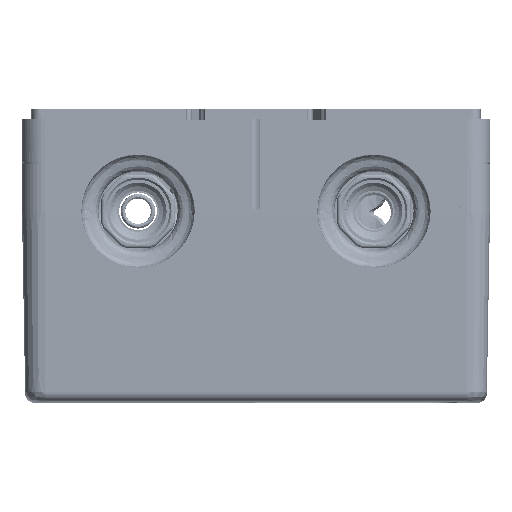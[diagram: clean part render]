
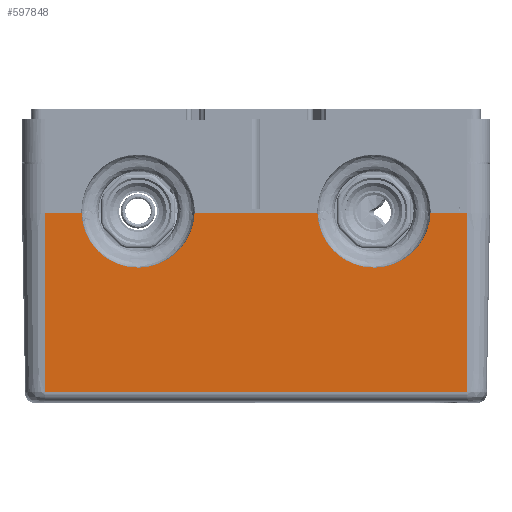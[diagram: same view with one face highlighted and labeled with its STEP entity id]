
A CAD part, top view. The second image highlights one B-rep face of the part: STEP entity #597848.
In plain terms, the highlighted planar face has unit normal (0, -0.018, 1) as drawn and (0, -1, 0.017) by its records, which use the part's own axes.
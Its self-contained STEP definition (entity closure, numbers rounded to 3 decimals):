
#23218 = CARTESIAN_POINT ( 'NONE',  ( -505.858, -53.996, 56.331 ) ) ;
#45542 = DIRECTION ( 'NONE',  ( 0., -0.017, -1. ) ) ;
#70361 = EDGE_CURVE ( 'NONE', #295335, #532044, #646770, .T. ) ;
#80579 = EDGE_CURVE ( 'NONE', #706822, #102458, #603341, .T. ) ;
#86307 = CARTESIAN_POINT ( 'NONE',  ( -564.021, -54.98, 0. ) ) ;
#102458 = VERTEX_POINT ( 'NONE', #276276 ) ;
#114531 = EDGE_CURVE ( 'NONE', #779554, #295335, #773133, .T. ) ;
#146332 = LINE ( 'NONE', #198091, #311118 ) ;
#161980 = VECTOR ( 'NONE', #217450, 1000. ) ;
#174602 = AXIS2_PLACEMENT_3D ( 'NONE', #179779, #818103, #45542 ) ;
#179779 = CARTESIAN_POINT ( 'NONE',  ( -484.537, -54.98, 0. ) ) ;
#185798 = CARTESIAN_POINT ( 'NONE',  ( -708.537, -54.98, 0. ) ) ;
#192102 = DIRECTION ( 'NONE',  ( 1., 0., 0. ) ) ;
#194723 = CARTESIAN_POINT ( 'NONE',  ( -708.537, -54.98, 0. ) ) ;
#198091 = CARTESIAN_POINT ( 'NONE',  ( -484.537, -54.98, 0. ) ) ;
#217450 = DIRECTION ( 'NONE',  ( 0., 0.017, 1. ) ) ;
#229019 = ORIENTED_EDGE ( 'NONE', *, *, #426930, .T. ) ;
#249799 = CARTESIAN_POINT ( 'NONE',  ( -630.852, -53.996, 56.343 ) ) ;
#268772 = VECTOR ( 'NONE', #419816, 1000. ) ;
#276276 = CARTESIAN_POINT ( 'NONE',  ( -708.537, -53.32, 95.087 ) ) ;
#287656 = CARTESIAN_POINT ( 'NONE',  ( -504.055, -54.98, 0. ) ) ;
#295335 = VERTEX_POINT ( 'NONE', #747730 ) ;
#307285 = LINE ( 'NONE', #595336, #161980 ) ;
#310058 = EDGE_CURVE ( 'NONE', #779554, #102458, #328849, .T. ) ;
#311118 = VECTOR ( 'NONE', #599623, 1000. ) ;
#328849 = LINE ( 'NONE', #194723, #793749 ) ;
#351390 = DIRECTION ( 'NONE',  ( -1., 0., 0. ) ) ;
#352545 = CARTESIAN_POINT ( 'NONE',  ( -484.537, -54.98, 0. ) ) ;
#358032 = CARTESIAN_POINT ( 'NONE',  ( -504.055, -54.98, 0. ) ) ;
#375197 = ORIENTED_EDGE ( 'NONE', *, *, #114531, .T. ) ;
#408765 = EDGE_CURVE ( 'NONE', #793632, #647799, #700030, .T. ) ;
#419816 = DIRECTION ( 'NONE',  ( 1., 0., 0. ) ) ;
#426930 = EDGE_CURVE ( 'NONE', #460171, #793632, #659130, .T. ) ;
#435768 = PLANE ( 'NONE',  #174602 ) ;
#447142 = CARTESIAN_POINT ( 'NONE',  ( -689.021, -54.98, 0. ) ) ;
#453879 = CARTESIAN_POINT ( 'NONE',  ( -484.537, -54.98, 0. ) ) ;
#460171 = VERTEX_POINT ( 'NONE', #512650 ) ;
#468127 = ORIENTED_EDGE ( 'NONE', *, *, #70361, .T. ) ;
#494437 = EDGE_CURVE ( 'NONE', #647799, #706822, #307285, .T. ) ;
#511121 = CARTESIAN_POINT ( 'NONE',  ( -484.537, -54.98, 0. ) ) ;
#512650 = CARTESIAN_POINT ( 'NONE',  ( -564.021, -54.98, 0. ) ) ;
#532044 = VERTEX_POINT ( 'NONE', #766569 ) ;
#562392 = VECTOR ( 'NONE', #192102, 1000. ) ;
#584916 = DIRECTION ( 'NONE',  ( 0., 0.017, 1. ) ) ;
#595336 = CARTESIAN_POINT ( 'NONE',  ( -484.537, -54.98, 0. ) ) ;
#597848 = ADVANCED_FACE ( 'NONE', ( #683624 ), #435768, .T. ) ;
#599623 = DIRECTION ( 'NONE',  ( 1., 0., 0. ) ) ;
#600253 = EDGE_CURVE ( 'NONE', #532044, #460171, #146332, .T. ) ;
#603341 = LINE ( 'NONE', #611563, #609362 ) ;
#609362 = VECTOR ( 'NONE', #351390, 1000. ) ;
#611563 = CARTESIAN_POINT ( 'NONE',  ( -484.537, -53.32, 95.087 ) ) ;
#644684 = CARTESIAN_POINT ( 'NONE',  ( -484.537, -53.32, 95.087 ) ) ;
#646770 =( BOUNDED_CURVE ( )  B_SPLINE_CURVE ( 3, ( #447142, #825366, #249799, #821233 ),
 .UNSPECIFIED., .F., .F. ) 
 B_SPLINE_CURVE_WITH_KNOTS ( ( 4, 4 ),
 ( 4.744, 7.822 ),
 .UNSPECIFIED. ) 
 CURVE ( )  GEOMETRIC_REPRESENTATION_ITEM ( )  RATIONAL_B_SPLINE_CURVE ( ( 1., 0.355, 0.355, 1. ) ) 
 REPRESENTATION_ITEM ( '' )  );
#647799 = VERTEX_POINT ( 'NONE', #352545 ) ;
#659130 =( BOUNDED_CURVE ( )  B_SPLINE_CURVE ( 3, ( #86307, #795858, #23218, #287656 ),
 .UNSPECIFIED., .F., .F. ) 
 B_SPLINE_CURVE_WITH_KNOTS ( ( 4, 4 ),
 ( 4.744, 7.822 ),
 .UNSPECIFIED. ) 
 CURVE ( )  GEOMETRIC_REPRESENTATION_ITEM ( )  RATIONAL_B_SPLINE_CURVE ( ( 1., 0.355, 0.355, 1. ) ) 
 REPRESENTATION_ITEM ( '' )  );
#681875 = ORIENTED_EDGE ( 'NONE', *, *, #80579, .T. ) ;
#683624 = FACE_OUTER_BOUND ( 'NONE', #779786, .T. ) ;
#700027 = ORIENTED_EDGE ( 'NONE', *, *, #600253, .T. ) ;
#700030 = LINE ( 'NONE', #511121, #562392 ) ;
#706822 = VERTEX_POINT ( 'NONE', #644684 ) ;
#708281 = ORIENTED_EDGE ( 'NONE', *, *, #408765, .T. ) ;
#738102 = ORIENTED_EDGE ( 'NONE', *, *, #494437, .T. ) ;
#747730 = CARTESIAN_POINT ( 'NONE',  ( -689.021, -54.98, 0. ) ) ;
#766569 = CARTESIAN_POINT ( 'NONE',  ( -629.054, -54.98, 0. ) ) ;
#773133 = LINE ( 'NONE', #453879, #268772 ) ;
#779554 = VERTEX_POINT ( 'NONE', #185798 ) ;
#779786 = EDGE_LOOP ( 'NONE', ( #700027, #229019, #708281, #738102, #681875, #787329, #375197, #468127 ) ) ;
#787329 = ORIENTED_EDGE ( 'NONE', *, *, #310058, .F. ) ;
#793632 = VERTEX_POINT ( 'NONE', #358032 ) ;
#793749 = VECTOR ( 'NONE', #584916, 1000. ) ;
#795858 = CARTESIAN_POINT ( 'NONE',  ( -562.218, -53.996, 56.331 ) ) ;
#818103 = DIRECTION ( 'NONE',  ( 0., -1., 0.017 ) ) ;
#821233 = CARTESIAN_POINT ( 'NONE',  ( -629.054, -54.98, 0. ) ) ;
#825366 = CARTESIAN_POINT ( 'NONE',  ( -687.223, -53.996, 56.343 ) ) ;
